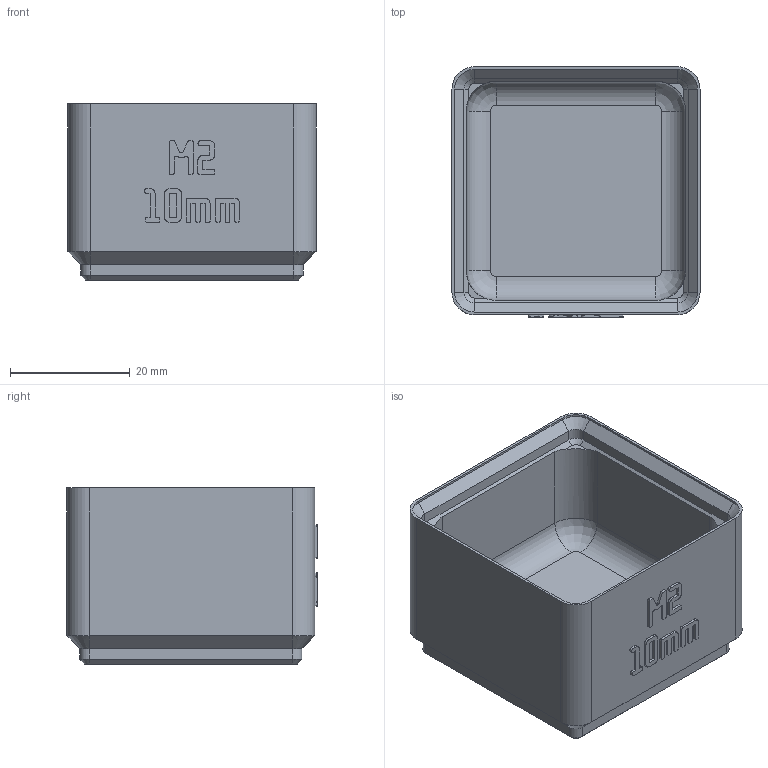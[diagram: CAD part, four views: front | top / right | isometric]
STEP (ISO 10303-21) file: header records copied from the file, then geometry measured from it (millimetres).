
FILE_DESCRIPTION(('Open CASCADE Model'),'2;1');
FILE_NAME('Open CASCADE Shape Model','2026-11-03T10:23:16',('Author'),( 'Open CASCADE'),'Open CASCADE STEP processor 8.0','build123d', 'Unknown');
FILE_SCHEMA(('AUTOMOTIVE_DESIGN { 1 0 10303 214 1 1 1 1 }'));
Length unit declared in the file: millimetre
Products named in the file (1): COMPOUND
Bounding box: 41.5 x 41.9 x 29.5 mm (x, y, z)
Volume: 18939.6 mm3; surface area: 10645.9 mm2
Topology: 1 solids, 1 shells, 650 faces, 1864 edges, 1224 vertices
Faces by surface type: plane 606, cylinder 24, cone 16, revolution 4
Entity records: 43830 total; most frequent: CARTESIAN_POINT 8935, DIRECTION 5630, LINE 4176, VECTOR 4176, ORIENTED_EDGE 3728, PCURVE 3728, DEFINITIONAL_REPRESENTATION 3728, EDGE_CURVE 1864
